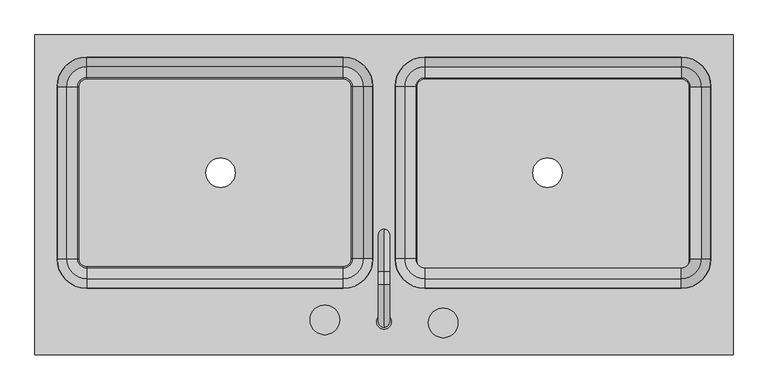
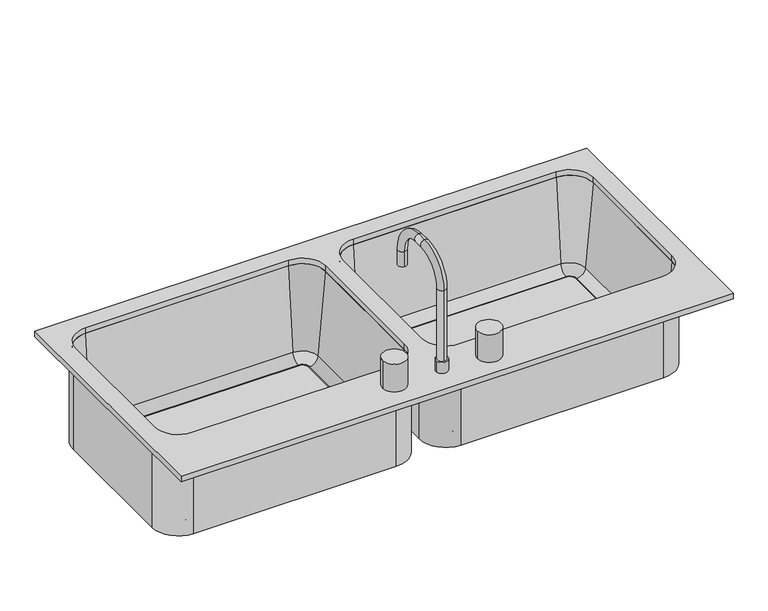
"""IFC4 building model written with IfcOpenShell, lengths in millimetres: flow terminal geometry, Evier double - Encastrable : 1000 mm x 535 mm."""

from ifc_helpers import new_model, si_unit, point, frame, frame_2d, origin, place, context, project, spatial, polyline, circle_curve, ellipse_curve, trimmed, segment, composite_curve, outline, extrude, source, transform, mapped, element, save
from ifc_brep_helpers import plane_surface, cylinder_surface, revolved_surface, advanced_brep


def flow_terminal_1db47c05(model_context):
    return source(origin(), model_context, "Body", "SolidModel", [
        extrude(outline(composite_curve([segment(polyline([(526.7892406, -127.5338193), (85.5392406, -127.5338193)]), True, "CONTINUOUS"), segment(trimmed(circle_curve(frame_2d((85.5392406, -114.8338193)), 12.7), [point((85.5392406, -127.5338193))], [point((72.8392406, -114.8338193))], False, "CARTESIAN"), True, "CONTINUOUS"), segment(polyline([(72.8392406, -114.8338193), (72.8392406, 183.7545989)]), True, "CONTINUOUS"), segment(trimmed(circle_curve(frame_2d((85.5392406, 183.7545989)), 12.7), [point((72.8392406, 183.7545989))], [point((85.5392406, 196.4545989))], False, "CARTESIAN"), True, "CONTINUOUS"), segment(polyline([(85.5392406, 196.4545989), (526.7892406, 196.4545989)]), True, "CONTINUOUS"), segment(trimmed(circle_curve(frame_2d((526.7892406, 183.7545989)), 12.7), [point((526.7892406, 196.4545989))], [point((539.4892406, 183.7545989))], False, "CARTESIAN"), True, "CONTINUOUS"), segment(polyline([(539.4892406, 183.7545989), (539.4892406, -114.8338193)]), True, "CONTINUOUS"), segment(trimmed(circle_curve(frame_2d((526.7892406, -114.8338193)), 12.7), [point((539.4892406, -114.8338193))], [point((526.7892406, -127.5338193))], False, "CARTESIAN"), True, "CONTINUOUS")], self_intersect=False), holes=[composite_curve([segment(trimmed(circle_curve(frame_2d((296.6392406, 35.7545989)), 25.4), [point((271.2392406, 35.7545989))], [point((322.0392406, 35.7545989))], True, "CARTESIAN"), True, "CONTINUOUS"), segment(trimmed(circle_curve(frame_2d((296.6392406, 35.7545989)), 25.4), [point((322.0392406, 35.7545989))], [point((271.2392406, 35.7545989))], True, "CARTESIAN"), True, "CONTINUOUS")], self_intersect=False)]), frame((0.0, 0.0, 634.1), z_axis=(0.0, 0.0, 1.0), x_axis=(1.0, 0.0, 0.0)), (0.0, 0.0, 1.0), 9.525),
        advanced_brep(
        [(34.7392406, -112.2454011, 850.0), (28.3892406, -112.2454011, 850.0), (85.5392406, -169.3954011, 850.0), (85.5392406, -163.0454011, 850.0), (51.2733134, -112.2454011, 661.0146831), (85.5392406, -146.5113283, 661.0146831), (70.2508224, -112.2454011, 643.625), (85.5392406, -127.5338193, 643.625), (72.8392406, -112.2454011, 643.625), (85.5392406, -124.9454011, 643.625), (72.8392406, -112.2454011, 634.1), (85.5392406, -124.9454011, 634.1), (28.3892406, -112.2454011, 634.1), (85.5392406, -169.3954011, 634.1), (34.7392406, 183.7545989, 850.0), (28.3892406, 183.7545989, 850.0), (51.2733134, 183.7545989, 661.0146831), (70.2508224, 183.7545989, 643.625), (72.8392406, 183.7545989, 643.625), (72.8392406, 183.7545989, 634.1), (28.3892406, 183.7545989, 634.1), (85.5392406, 234.5545989, 850.0), (85.5392406, 240.9045989, 850.0), (85.5392406, 218.0205261, 661.0146831), (85.5392406, 199.0430171, 643.625), (85.5392406, 196.4545989, 643.625), (85.5392406, 196.4545989, 634.1), (85.5392406, 240.9045989, 634.1), (526.7892406, 234.5545989, 850.0), (526.7892406, 240.9045989, 850.0), (526.7892406, 218.0205261, 661.0146831), (526.7892406, 199.0430171, 643.625), (526.7892406, 196.4545989, 643.625), (526.7892406, 196.4545989, 634.1), (526.7892406, 240.9045989, 634.1), (577.5892406, 183.7545989, 850.0), (583.9392406, 183.7545989, 850.0), (561.0551678, 183.7545989, 661.0146831), (542.0776588, 183.7545989, 643.625), (539.4892406, 183.7545989, 643.625), (539.4892406, 183.7545989, 634.1), (583.9392406, 183.7545989, 634.1), (577.5892406, -112.2454011, 850.0), (583.9392406, -112.2454011, 850.0), (561.0551678, -112.2454011, 661.0146831), (542.0776588, -112.2454011, 643.625), (539.4892406, -112.2454011, 643.625), (539.4892406, -112.2454011, 634.1), (583.9392406, -112.2454011, 634.1), (526.7892406, -163.0454011, 850.0), (526.7892406, -169.3954011, 850.0), (526.7892406, -146.5113283, 661.0146831), (526.7892406, -127.5338193, 643.625), (526.7892406, -124.9454011, 643.625), (526.7892406, -124.9454011, 634.1), (526.7892406, -169.3954011, 634.1)],
        [
            (0, 1),
            (1, 2, circle_curve(frame((85.5392406, -112.2454011, 850.0), z_axis=(0.0, 0.0, 1.0), x_axis=(0.0, -1.0, 0.0)), 57.15)),
            (2, 3),
            (3, 0, circle_curve(frame((85.5392406, -112.2454011, 850.0), z_axis=(0.0, 0.0, -1.0), x_axis=(0.0, -1.0, 0.0)), 50.8)),
            (4, 0),
            (3, 5),
            (5, 4, circle_curve(frame((85.5392406, -112.2454011, 661.0146831), z_axis=(0.0, 0.0, -1.0), x_axis=(0.0, -1.0, 0.0)), 34.2659272)),
            (6, 4, circle_curve(frame((70.2508224, -112.2454011, 662.675), z_axis=(0.0, 1.0, 0.0), x_axis=(1.0, 0.0, 0.0)), 19.05)),
            (5, 7, circle_curve(frame((85.5392406, -127.5338193, 662.675), z_axis=(1.0, 0.0, 0.0), x_axis=(0.0, 1.0, 0.0)), 19.05)),
            (7, 6, circle_curve(frame((85.5392406, -112.2454011, 643.625), z_axis=(0.0, 0.0, -1.0), x_axis=(0.0, -1.0, 0.0)), 15.2884182)),
            (8, 6),
            (7, 9),
            (9, 8, circle_curve(frame((85.5392406, -112.2454011, 643.625), z_axis=(0.0, 0.0, -1.0), x_axis=(0.0, -1.0, 0.0)), 12.7)),
            (10, 8),
            (9, 11),
            (11, 10, circle_curve(frame((85.5392406, -112.2454011, 634.1), z_axis=(0.0, 0.0, -1.0), x_axis=(0.0, -1.0, 0.0)), 12.7)),
            (12, 10),
            (11, 13),
            (13, 12, circle_curve(frame((85.5392406, -112.2454011, 634.1), z_axis=(0.0, 0.0, -1.0), x_axis=(0.0, -1.0, 0.0)), 57.15)),
            (1, 12),
            (13, 2),
            (0, 14),
            (14, 15),
            (15, 1),
            (4, 16),
            (16, 14),
            (6, 17),
            (17, 16, circle_curve(frame((70.2508224, 183.7545989, 662.675), z_axis=(0.0, 1.0, 0.0), x_axis=(1.0, 0.0, 0.0)), 19.05)),
            (8, 18),
            (18, 17),
            (10, 19),
            (19, 18),
            (12, 20),
            (20, 19),
            (15, 20),
            (21, 22),
            (22, 15, circle_curve(frame((85.5392406, 183.7545989, 850.0), z_axis=(0.0, 0.0, 1.0), x_axis=(-1.0, 0.0, 0.0)), 57.15)),
            (14, 21, circle_curve(frame((85.5392406, 183.7545989, 850.0), z_axis=(0.0, 0.0, -1.0), x_axis=(-1.0, 0.0, 0.0)), 50.8)),
            (23, 21),
            (16, 23, circle_curve(frame((85.5392406, 183.7545989, 661.0146831), z_axis=(0.0, 0.0, -1.0), x_axis=(-1.0, 0.0, 0.0)), 34.2659272)),
            (24, 23, circle_curve(frame((85.5392406, 199.0430171, 662.675), z_axis=(1.0, 0.0, 0.0), x_axis=(0.0, -1.0, 0.0)), 19.05)),
            (17, 24, circle_curve(frame((85.5392406, 183.7545989, 643.625), z_axis=(0.0, 0.0, -1.0), x_axis=(-1.0, 0.0, 0.0)), 15.2884182)),
            (25, 24),
            (18, 25, circle_curve(frame((85.5392406, 183.7545989, 643.625), z_axis=(0.0, 0.0, -1.0), x_axis=(-1.0, 0.0, 0.0)), 12.7)),
            (26, 25),
            (19, 26, circle_curve(frame((85.5392406, 183.7545989, 634.1), z_axis=(0.0, 0.0, -1.0), x_axis=(-1.0, 0.0, 0.0)), 12.7)),
            (27, 26),
            (20, 27, circle_curve(frame((85.5392406, 183.7545989, 634.1), z_axis=(0.0, 0.0, -1.0), x_axis=(-1.0, 0.0, 0.0)), 57.15)),
            (22, 27),
            (21, 28),
            (28, 29),
            (29, 22),
            (23, 30),
            (30, 28),
            (24, 31),
            (31, 30, circle_curve(frame((526.7892406, 199.0430171, 662.675), z_axis=(1.0, 0.0, 0.0), x_axis=(0.0, -1.0, 0.0)), 19.05)),
            (25, 32),
            (32, 31),
            (26, 33),
            (33, 32),
            (27, 34),
            (34, 33),
            (29, 34),
            (35, 36),
            (36, 29, circle_curve(frame((526.7892406, 183.7545989, 850.0), z_axis=(0.0, 0.0, 1.0), x_axis=(0.0, 1.0, 0.0)), 57.15)),
            (28, 35, circle_curve(frame((526.7892406, 183.7545989, 850.0), z_axis=(0.0, 0.0, -1.0), x_axis=(0.0, 1.0, 0.0)), 50.8)),
            (37, 35),
            (30, 37, circle_curve(frame((526.7892406, 183.7545989, 661.0146831), z_axis=(0.0, 0.0, -1.0), x_axis=(0.0, 1.0, 0.0)), 34.2659272)),
            (38, 37, circle_curve(frame((542.0776588, 183.7545989, 662.675), z_axis=(0.0, -1.0, 0.0), x_axis=(-1.0, 0.0, 0.0)), 19.05)),
            (31, 38, circle_curve(frame((526.7892406, 183.7545989, 643.625), z_axis=(0.0, 0.0, -1.0), x_axis=(0.0, 1.0, 0.0)), 15.2884182)),
            (39, 38),
            (32, 39, circle_curve(frame((526.7892406, 183.7545989, 643.625), z_axis=(0.0, 0.0, -1.0), x_axis=(0.0, 1.0, 0.0)), 12.7)),
            (40, 39),
            (33, 40, circle_curve(frame((526.7892406, 183.7545989, 634.1), z_axis=(0.0, 0.0, -1.0), x_axis=(0.0, 1.0, 0.0)), 12.7)),
            (41, 40),
            (34, 41, circle_curve(frame((526.7892406, 183.7545989, 634.1), z_axis=(0.0, 0.0, -1.0), x_axis=(0.0, 1.0, 0.0)), 57.15)),
            (36, 41),
            (35, 42),
            (42, 43),
            (43, 36),
            (37, 44),
            (44, 42),
            (38, 45),
            (45, 44, circle_curve(frame((542.0776588, -112.2454011, 662.675), z_axis=(0.0, -1.0, 0.0), x_axis=(-1.0, 0.0, 0.0)), 19.05)),
            (39, 46),
            (46, 45),
            (40, 47),
            (47, 46),
            (41, 48),
            (48, 47),
            (43, 48),
            (49, 50),
            (50, 43, circle_curve(frame((526.7892406, -112.2454011, 850.0), z_axis=(0.0, 0.0, 1.0), x_axis=(1.0, 0.0, 0.0)), 57.15)),
            (42, 49, circle_curve(frame((526.7892406, -112.2454011, 850.0), z_axis=(0.0, 0.0, -1.0), x_axis=(1.0, 0.0, 0.0)), 50.8)),
            (51, 49),
            (44, 51, circle_curve(frame((526.7892406, -112.2454011, 661.0146831), z_axis=(0.0, 0.0, -1.0), x_axis=(1.0, 0.0, 0.0)), 34.2659272)),
            (52, 51, circle_curve(frame((526.7892406, -127.5338193, 662.675), z_axis=(-1.0, 0.0, 0.0), x_axis=(0.0, 1.0, 0.0)), 19.05)),
            (45, 52, circle_curve(frame((526.7892406, -112.2454011, 643.625), z_axis=(0.0, 0.0, -1.0), x_axis=(1.0, 0.0, 0.0)), 15.2884182)),
            (53, 52),
            (46, 53, circle_curve(frame((526.7892406, -112.2454011, 643.625), z_axis=(0.0, 0.0, -1.0), x_axis=(1.0, 0.0, 0.0)), 12.7)),
            (54, 53),
            (47, 54, circle_curve(frame((526.7892406, -112.2454011, 634.1), z_axis=(0.0, 0.0, -1.0), x_axis=(1.0, 0.0, 0.0)), 12.7)),
            (55, 54),
            (48, 55, circle_curve(frame((526.7892406, -112.2454011, 634.1), z_axis=(0.0, 0.0, -1.0), x_axis=(1.0, 0.0, 0.0)), 57.15)),
            (50, 55),
            (49, 3),
            (2, 50),
            (51, 5),
            (52, 7),
            (53, 9),
            (54, 11),
            (55, 13),
        ],
        [
            plane_surface(frame((85.5392406, -112.2454011, 850.0), z_axis=(0.0, 0.0, 1.0), x_axis=(0.0, -1.0, 0.0))),
            revolved_surface(polyline([(85.5392406, -163.0454011, 850.0), (85.5392406, -146.5113283, 661.0146831)]), (85.5392406, -112.2454011, 0.0), (0.0, 0.0, 1.0)),
            revolved_surface(trimmed(ellipse_curve(frame((85.5392406, -127.5338193, 662.675), z_axis=(1.0, 0.0, 0.0), x_axis=(0.0, 1.0, 0.0)), 19.05, 19.05), [point((85.5392406, -146.5113283, 661.0146831))], [point((85.5392406, -127.5338193, 643.625))], True, "CARTESIAN"), (85.5392406, -112.2454011, 0.0), (0.0, 0.0, 1.0)),
            plane_surface(frame((85.5392406, -112.2454011, 643.625), z_axis=(0.0, 0.0, 1.0), x_axis=(0.0, -1.0, 0.0))),
            revolved_surface(polyline([(85.5392406, -124.9454011, 643.625), (85.5392406, -124.9454011, 634.1)]), (85.5392406, -112.2454011, 0.0), (0.0, 0.0, 1.0)),
            plane_surface(frame((85.5392406, -112.2454011, 634.1), z_axis=(0.0, 0.0, -1.0), x_axis=(0.0, -1.0, 0.0))),
            cylinder_surface(frame((85.5392406, -112.2454011, 0.0), z_axis=(0.0, 0.0, 1.0), x_axis=(0.0, -1.0, 0.0)), 57.15),
            plane_surface(frame((28.3892406, -112.2454011, 850.0), z_axis=(0.0, 0.0, 1.0), x_axis=(0.0, 1.0, 0.0))),
            plane_surface(frame((34.7392406, -112.2454011, 850.0), z_axis=(0.996194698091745, 0.0, 0.08715574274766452), x_axis=(0.0, 1.0, 0.0))),
            revolved_surface(polyline([(89.3008224, 183.75459890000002, 662.675), (89.3008224, -112.2454011, 662.675)]), (70.2508224, -112.2454011, 662.675), (0.0, 1.0, 0.0)),
            plane_surface(frame((70.2508224, -112.2454011, 643.625), z_axis=(0.0, 0.0, 1.0), x_axis=(0.0, 1.0, 0.0))),
            plane_surface(frame((72.8392406, -112.2454011, 643.625), z_axis=(1.0, 0.0, 0.0), x_axis=(0.0, 1.0, 0.0))),
            plane_surface(frame((72.8392406, -112.2454011, 634.1), z_axis=(0.0, 0.0, -1.0), x_axis=(0.0, 1.0, 0.0))),
            plane_surface(frame((28.3892406, -112.2454011, 634.1), z_axis=(-1.0, 0.0, 0.0), x_axis=(0.0, 1.0, 0.0))),
            plane_surface(frame((85.5392406, 183.7545989, 850.0), z_axis=(0.0, 0.0, 1.0), x_axis=(-1.0, 0.0, 0.0))),
            revolved_surface(polyline([(34.7392406, 183.7545989, 850.0), (51.2733134, 183.7545989, 661.0146831)]), (85.5392406, 183.7545989, 0.0), (0.0, 0.0, 1.0)),
            revolved_surface(trimmed(ellipse_curve(frame((70.2508224, 183.7545989, 662.675), z_axis=(0.0, -1.0, 0.0), x_axis=(1.0, 0.0, 0.0)), 19.05, 19.05), [point((51.2733134, 183.7545989, 661.0146831))], [point((70.2508224, 183.7545989, 643.625))], True, "CARTESIAN"), (85.5392406, 183.7545989, 0.0), (0.0, 0.0, 1.0)),
            plane_surface(frame((85.5392406, 183.7545989, 643.625), z_axis=(0.0, 0.0, 1.0), x_axis=(-1.0, 0.0, 0.0))),
            revolved_surface(polyline([(72.8392406, 183.7545989, 643.625), (72.8392406, 183.7545989, 634.1)]), (85.5392406, 183.7545989, 0.0), (0.0, 0.0, 1.0)),
            plane_surface(frame((85.5392406, 183.7545989, 634.1), z_axis=(0.0, 0.0, -1.0), x_axis=(-1.0, 0.0, 0.0))),
            cylinder_surface(frame((85.5392406, 183.7545989, 0.0), z_axis=(0.0, 0.0, 1.0), x_axis=(-1.0, 0.0, 0.0)), 57.15),
            plane_surface(frame((85.5392406, 240.9045989, 850.0), z_axis=(0.0, 0.0, 1.0), x_axis=(1.0, 0.0, 0.0))),
            plane_surface(frame((85.5392406, 234.5545989, 850.0), z_axis=(0.0, -0.996194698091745, 0.08715574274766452), x_axis=(1.0, 0.0, 0.0))),
            revolved_surface(polyline([(526.7892406, 179.99301709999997, 662.675), (85.5392406, 179.99301709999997, 662.675)]), (85.5392406, 199.0430171, 662.675), (1.0, 0.0, 0.0)),
            plane_surface(frame((85.5392406, 199.0430171, 643.625), z_axis=(0.0, 0.0, 1.0), x_axis=(1.0, 0.0, 0.0))),
            plane_surface(frame((85.5392406, 196.4545989, 643.625), z_axis=(0.0, -1.0, 0.0), x_axis=(1.0, 0.0, 0.0))),
            plane_surface(frame((85.5392406, 196.4545989, 634.1), z_axis=(0.0, 0.0, -1.0), x_axis=(1.0, 0.0, 0.0))),
            plane_surface(frame((85.5392406, 240.9045989, 634.1), z_axis=(0.0, 1.0, 0.0), x_axis=(1.0, 0.0, 0.0))),
            plane_surface(frame((526.7892406, 183.7545989, 850.0), z_axis=(0.0, 0.0, 1.0), x_axis=(0.0, 1.0, 0.0))),
            revolved_surface(polyline([(526.7892406, 234.5545989, 850.0), (526.7892406, 218.0205261, 661.0146831)]), (526.7892406, 183.7545989, 0.0), (0.0, 0.0, 1.0)),
            revolved_surface(trimmed(ellipse_curve(frame((526.7892406, 199.0430171, 662.675), z_axis=(-1.0, 0.0, 0.0), x_axis=(0.0, -1.0, 0.0)), 19.05, 19.05), [point((526.7892406, 218.0205261, 661.0146831))], [point((526.7892406, 199.0430171, 643.625))], True, "CARTESIAN"), (526.7892406, 183.7545989, 0.0), (0.0, 0.0, 1.0)),
            plane_surface(frame((526.7892406, 183.7545989, 643.625), z_axis=(0.0, 0.0, 1.0), x_axis=(0.0, 1.0, 0.0))),
            revolved_surface(polyline([(526.7892406, 196.45459889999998, 643.625), (526.7892406, 196.45459889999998, 634.1)]), (526.7892406, 183.7545989, 0.0), (0.0, 0.0, 1.0)),
            plane_surface(frame((526.7892406, 183.7545989, 634.1), z_axis=(0.0, 0.0, -1.0), x_axis=(0.0, 1.0, 0.0))),
            cylinder_surface(frame((526.7892406, 183.7545989, 0.0), z_axis=(0.0, 0.0, 1.0), x_axis=(0.0, 1.0, 0.0)), 57.15),
            plane_surface(frame((583.9392406, 183.7545989, 850.0), z_axis=(0.0, 0.0, 1.0), x_axis=(0.0, -1.0, 0.0))),
            plane_surface(frame((577.5892406, 183.7545989, 850.0), z_axis=(-0.996194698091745, 0.0, 0.08715574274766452), x_axis=(0.0, -1.0, 0.0))),
            revolved_surface(polyline([(523.0276588, -112.24540110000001, 662.675), (523.0276588, 183.7545989, 662.675)]), (542.0776588, 183.7545989, 662.675), (0.0, -1.0, 0.0)),
            plane_surface(frame((542.0776588, 183.7545989, 643.625), z_axis=(0.0, 0.0, 1.0), x_axis=(0.0, -1.0, 0.0))),
            plane_surface(frame((539.4892406, 183.7545989, 643.625), z_axis=(-1.0, 0.0, 0.0), x_axis=(0.0, -1.0, 0.0))),
            plane_surface(frame((539.4892406, 183.7545989, 634.1), z_axis=(0.0, 0.0, -1.0), x_axis=(0.0, -1.0, 0.0))),
            plane_surface(frame((583.9392406, 183.7545989, 634.1), z_axis=(1.0, 0.0, 0.0), x_axis=(0.0, -1.0, 0.0))),
            plane_surface(frame((526.7892406, -112.2454011, 850.0), z_axis=(0.0, 0.0, 1.0), x_axis=(1.0, 0.0, 0.0))),
            revolved_surface(polyline([(577.5892406, -112.2454011, 850.0), (561.0551678, -112.2454011, 661.0146831)]), (526.7892406, -112.2454011, 0.0), (0.0, 0.0, 1.0)),
            revolved_surface(trimmed(ellipse_curve(frame((542.0776588, -112.2454011, 662.675), z_axis=(0.0, 1.0, 0.0), x_axis=(-1.0, 0.0, 0.0)), 19.05, 19.05), [point((561.0551678, -112.2454011, 661.0146831))], [point((542.0776588, -112.2454011, 643.625))], True, "CARTESIAN"), (526.7892406, -112.2454011, 0.0), (0.0, 0.0, 1.0)),
            plane_surface(frame((526.7892406, -112.2454011, 643.625), z_axis=(0.0, 0.0, 1.0), x_axis=(1.0, 0.0, 0.0))),
            revolved_surface(polyline([(539.4892406, -112.2454011, 643.625), (539.4892406, -112.2454011, 634.1)]), (526.7892406, -112.2454011, 0.0), (0.0, 0.0, 1.0)),
            plane_surface(frame((526.7892406, -112.2454011, 634.1), z_axis=(0.0, 0.0, -1.0), x_axis=(1.0, 0.0, 0.0))),
            cylinder_surface(frame((526.7892406, -112.2454011, 0.0), z_axis=(0.0, 0.0, 1.0), x_axis=(1.0, 0.0, 0.0)), 57.15),
            plane_surface(frame((526.7892406, -169.3954011, 850.0), z_axis=(0.0, 0.0, 1.0), x_axis=(-1.0, 0.0, 0.0))),
            plane_surface(frame((526.7892406, -163.0454011, 850.0), z_axis=(0.0, 0.996194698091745, 0.08715574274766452), x_axis=(-1.0, 0.0, 0.0))),
            revolved_surface(polyline([(85.53924059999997, -108.48381930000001, 662.675), (526.7892406, -108.48381930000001, 662.675)]), (526.7892406, -127.5338193, 662.675), (-1.0, 0.0, 0.0)),
            plane_surface(frame((526.7892406, -127.5338193, 643.625), z_axis=(0.0, 0.0, 1.0), x_axis=(-1.0, 0.0, 0.0))),
            plane_surface(frame((526.7892406, -124.9454011, 643.625), z_axis=(0.0, 1.0, 0.0), x_axis=(-1.0, 0.0, 0.0))),
            plane_surface(frame((526.7892406, -124.9454011, 634.1), z_axis=(0.0, 0.0, -1.0), x_axis=(-1.0, 0.0, 0.0))),
            plane_surface(frame((526.7892406, -169.3954011, 634.1), z_axis=(0.0, -1.0, 0.0), x_axis=(-1.0, 0.0, 0.0))),
        ],
        [
            (0, [[1, 2, 3, 4]]),
            (1, [[5, -4, 6, 7]]),
            (2, [[8, -7, 9, 10]]),
            (3, [[11, -10, 12, 13]]),
            (4, [[14, -13, 15, 16]]),
            (5, [[17, -16, 18, 19]]),
            (6, [[20, -19, 21, -2]]),
            (7, [[22, 23, 24, -1]]),
            (8, [[25, 26, -22, -5]]),
            (9, [[27, 28, -25, -8]]),
            (10, [[29, 30, -27, -11]]),
            (11, [[31, 32, -29, -14]]),
            (12, [[33, 34, -31, -17]]),
            (13, [[-24, 35, -33, -20]]),
            (14, [[36, 37, -23, 38]]),
            (15, [[39, -38, -26, 40]]),
            (16, [[41, -40, -28, 42]]),
            (17, [[43, -42, -30, 44]]),
            (18, [[45, -44, -32, 46]]),
            (19, [[47, -46, -34, 48]]),
            (20, [[49, -48, -35, -37]]),
            (21, [[50, 51, 52, -36]]),
            (22, [[53, 54, -50, -39]]),
            (23, [[55, 56, -53, -41]]),
            (24, [[57, 58, -55, -43]]),
            (25, [[59, 60, -57, -45]]),
            (26, [[61, 62, -59, -47]]),
            (27, [[-52, 63, -61, -49]]),
            (28, [[64, 65, -51, 66]]),
            (29, [[67, -66, -54, 68]]),
            (30, [[69, -68, -56, 70]]),
            (31, [[71, -70, -58, 72]]),
            (32, [[73, -72, -60, 74]]),
            (33, [[75, -74, -62, 76]]),
            (34, [[77, -76, -63, -65]]),
            (35, [[78, 79, 80, -64]]),
            (36, [[81, 82, -78, -67]]),
            (37, [[83, 84, -81, -69]]),
            (38, [[85, 86, -83, -71]]),
            (39, [[87, 88, -85, -73]]),
            (40, [[89, 90, -87, -75]]),
            (41, [[-80, 91, -89, -77]]),
            (42, [[92, 93, -79, 94]]),
            (43, [[95, -94, -82, 96]]),
            (44, [[97, -96, -84, 98]]),
            (45, [[99, -98, -86, 100]]),
            (46, [[101, -100, -88, 102]]),
            (47, [[103, -102, -90, 104]]),
            (48, [[105, -104, -91, -93]]),
            (49, [[106, -3, 107, -92]]),
            (50, [[108, -6, -106, -95]]),
            (51, [[109, -9, -108, -97]]),
            (52, [[110, -12, -109, -99]]),
            (53, [[111, -15, -110, -101]]),
            (54, [[112, -18, -111, -103]]),
            (55, [[-107, -21, -112, -105]]),
        ],
    ),
        extrude(outline(composite_curve([segment(trimmed(circle_curve(frame_2d((15.6892406, -220.1954011)), 12.7), [point((2.9892406, -220.1954011))], [point((28.3892406, -220.1954011))], False, "CARTESIAN"), True, "CONTINUOUS"), segment(trimmed(circle_curve(frame_2d((15.6892406, -220.1954011)), 12.7), [point((28.3892406, -220.1954011))], [point((2.9892406, -220.1954011))], False, "CARTESIAN"), True, "CONTINUOUS")], self_intersect=False)), frame((0.0, 0.0, 862.7), z_axis=(0.0, 0.0, 1.0), x_axis=(1.0, 0.0, 0.0)), (0.0, 0.0, 1.0), 25.4),
        advanced_brep(
        [(15.6892406, -229.7204011, 862.7), (15.6892406, -210.6704011, 862.7), (15.6892406, -210.6704011, 1050.025), (15.6892406, -229.7204011, 1050.025), (15.6892406, -156.6954011, 1104.0), (15.6892406, -156.6954011, 1123.05), (15.6892406, -134.4704011, 1104.0), (15.6892406, -134.4704011, 1123.05), (15.6892406, -80.4954011, 1050.025), (15.6892406, -61.4454011, 1050.025), (15.6892406, -61.4454011, 1015.1), (15.6892406, -80.4954011, 1015.1)],
        [
            (0, 1, circle_curve(frame((15.6892406, -220.1954011, 862.7), z_axis=(0.0, 0.0, -1.0), x_axis=(0.0, 1.0, 0.0)), 9.525)),
            (1, 0, circle_curve(frame((15.6892406, -220.1954011, 862.7), z_axis=(0.0, 0.0, -1.0), x_axis=(0.0, 1.0, 0.0)), 9.525)),
            (1, 2),
            (2, 3, circle_curve(frame((15.6892406, -220.1954011, 1050.025), z_axis=(0.0, 0.0, -1.0), x_axis=(0.0, 1.0, 0.0)), 9.525)),
            (3, 0),
            (3, 2, circle_curve(frame((15.6892406, -220.1954011, 1050.025), z_axis=(0.0, 0.0, -1.0), x_axis=(0.0, 1.0, 0.0)), 9.525)),
            (4, 5, circle_curve(frame((15.6892406, -156.6954011, 1113.525), z_axis=(0.0, -1.0, 0.0), x_axis=(0.0, 0.0, -1.0)), 9.525)),
            (5, 3, circle_curve(frame((15.6892406, -156.6954011, 1050.025), z_axis=(1.0, 0.0, 0.0), x_axis=(0.0, -1.0, 0.0)), 73.025)),
            (2, 4, circle_curve(frame((15.6892406, -156.6954011, 1050.025), z_axis=(-1.0, 0.0, 0.0), x_axis=(0.0, -1.0, 0.0)), 53.975)),
            (5, 4, circle_curve(frame((15.6892406, -156.6954011, 1113.525), z_axis=(0.0, -1.0, 0.0), x_axis=(0.0, 0.0, -1.0)), 9.525)),
            (4, 6),
            (6, 7, circle_curve(frame((15.6892406, -134.4704011, 1113.525), z_axis=(0.0, -1.0, 0.0), x_axis=(0.0, 0.0, -1.0)), 9.525)),
            (7, 5),
            (7, 6, circle_curve(frame((15.6892406, -134.4704011, 1113.525), z_axis=(0.0, -1.0, 0.0), x_axis=(0.0, 0.0, -1.0)), 9.525)),
            (8, 9, circle_curve(frame((15.6892406, -70.9704011, 1050.025), z_axis=(0.0, 0.0, 1.0), x_axis=(0.0, -1.0, 0.0)), 9.525)),
            (9, 7, circle_curve(frame((15.6892406, -134.4704011, 1050.025), z_axis=(1.0, 0.0, 0.0), x_axis=(0.0, 0.0, 1.0)), 73.025)),
            (6, 8, circle_curve(frame((15.6892406, -134.4704011, 1050.025), z_axis=(-1.0, 0.0, 0.0), x_axis=(0.0, 0.0, 1.0)), 53.975)),
            (9, 8, circle_curve(frame((15.6892406, -70.9704011, 1050.025), z_axis=(0.0, 0.0, 1.0), x_axis=(0.0, -1.0, 0.0)), 9.525)),
            (10, 11, circle_curve(frame((15.6892406, -70.9704011, 1015.1), z_axis=(0.0, 0.0, -1.0), x_axis=(0.0, -1.0, 0.0)), 9.525)),
            (11, 10, circle_curve(frame((15.6892406, -70.9704011, 1015.1), z_axis=(0.0, 0.0, -1.0), x_axis=(0.0, -1.0, 0.0)), 9.525)),
            (8, 11),
            (10, 9),
        ],
        [
            plane_surface(frame((15.6892406, -210.6704011, 862.7), z_axis=(0.0, 0.0, -1.0), x_axis=(1.0, 0.0, 0.0))),
            cylinder_surface(frame((15.6892406, -220.1954011, 862.7), z_axis=(0.0, 0.0, -1.0), x_axis=(0.0, 1.0, 0.0)), 9.525),
            revolved_surface(trimmed(ellipse_curve(frame((15.6892406, -220.1954011, 1050.025), z_axis=(0.0, 0.0, 1.0), x_axis=(0.0, 1.0, 0.0)), 9.525, 9.525), [point((15.6892406, -229.7204011, 1050.025))], [point((15.6892406, -210.6704011, 1050.025))], True, "CARTESIAN"), (15.6892406, -156.6954011, 1050.025), (1.0, 0.0, 0.0)),
            revolved_surface(trimmed(ellipse_curve(frame((15.6892406, -220.1954011, 1050.025), z_axis=(0.0, 0.0, 1.0), x_axis=(0.0, 1.0, 0.0)), 9.525, 9.525), [point((15.6892406, -210.6704011, 1050.025))], [point((15.6892406, -229.7204011, 1050.025))], True, "CARTESIAN"), (15.6892406, -156.6954011, 1050.025), (1.0, 0.0, 0.0)),
            cylinder_surface(frame((15.6892406, -156.6954011, 1113.525), z_axis=(0.0, -1.0, 0.0), x_axis=(0.0, 0.0, -1.0)), 9.525),
            revolved_surface(trimmed(ellipse_curve(frame((15.6892406, -134.4704011, 1113.525), z_axis=(0.0, 1.0, 0.0), x_axis=(0.0, 0.0, -1.0)), 9.525, 9.525), [point((15.6892406, -134.4704011, 1123.05))], [point((15.6892406, -134.4704011, 1104.0))], True, "CARTESIAN"), (15.6892406, -134.4704011, 1050.025), (1.0, 0.0, 0.0)),
            revolved_surface(trimmed(ellipse_curve(frame((15.6892406, -134.4704011, 1113.525), z_axis=(0.0, 1.0, 0.0), x_axis=(0.0, 0.0, -1.0)), 9.525, 9.525), [point((15.6892406, -134.4704011, 1104.0))], [point((15.6892406, -134.4704011, 1123.05))], True, "CARTESIAN"), (15.6892406, -134.4704011, 1050.025), (1.0, 0.0, 0.0)),
            plane_surface(frame((15.6892406, -61.4454011, 1015.1), z_axis=(0.0, 0.0, -1.0), x_axis=(-1.0, 0.0, 0.0))),
            cylinder_surface(frame((15.6892406, -70.9704011, 1050.025), z_axis=(0.0, 0.0, 1.0), x_axis=(0.0, -1.0, 0.0)), 9.525),
        ],
        [
            (0, [[1, 2]]),
            (1, [[3, 4, 5, -2]]),
            (1, [[-5, 6, -3, -1]]),
            (2, [[7, 8, -4, 9]]),
            (3, [[10, -9, -6, -8]]),
            (4, [[11, 12, 13, -7]]),
            (4, [[-13, 14, -11, -10]]),
            (5, [[15, 16, -12, 17]]),
            (6, [[18, -17, -14, -16]]),
            (7, [[19, 20]]),
            (8, [[21, -19, 22, -15]]),
            (8, [[-22, -20, -21, -18]]),
        ],
    ),
        extrude(outline(composite_curve([segment(trimmed(circle_curve(frame_2d((-85.9107594, -217.1166076)), 25.4), [point((-111.3107594, -217.1166076))], [point((-60.5107594, -217.1166076))], False, "CARTESIAN"), True, "CONTINUOUS"), segment(trimmed(circle_curve(frame_2d((-85.9107594, -217.1166076)), 25.4), [point((-60.5107594, -217.1166076))], [point((-111.3107594, -217.1166076))], False, "CARTESIAN"), True, "CONTINUOUS")], self_intersect=False)), frame((0.0, 0.0, 862.7), z_axis=(0.0, 0.0, 1.0), x_axis=(1.0, 0.0, 0.0)), (0.0, 0.0, 1.0), 63.5),
        extrude(outline(composite_curve([segment(trimmed(circle_curve(frame_2d((117.2892406, -222.3133323)), 25.4), [point((91.8892406, -222.3133323))], [point((142.6892406, -222.3133323))], False, "CARTESIAN"), True, "CONTINUOUS"), segment(trimmed(circle_curve(frame_2d((117.2892406, -222.3133323)), 25.4), [point((142.6892406, -222.3133323))], [point((91.8892406, -222.3133323))], False, "CARTESIAN"), True, "CONTINUOUS")], self_intersect=False)), frame((0.0, 0.0, 862.7), z_axis=(0.0, 0.0, 1.0), x_axis=(1.0, 0.0, 0.0)), (0.0, 0.0, 1.0), 63.5),
        extrude(outline(composite_curve([segment(polyline([(-54.1607594, -124.9454011), (-495.4107594, -124.9454011)]), True, "CONTINUOUS"), segment(trimmed(circle_curve(frame_2d((-495.4107594, -112.2454011)), 12.7), [point((-495.4107594, -124.9454011))], [point((-508.1107594, -112.2454011))], False, "CARTESIAN"), True, "CONTINUOUS"), segment(polyline([(-508.1107594, -112.2454011), (-508.1107594, 183.7545989)]), True, "CONTINUOUS"), segment(trimmed(circle_curve(frame_2d((-495.4107594, 183.7545989)), 12.7), [point((-508.1107594, 183.7545989))], [point((-495.4107594, 196.4545989))], False, "CARTESIAN"), True, "CONTINUOUS"), segment(polyline([(-495.4107594, 196.4545989), (-54.1607594, 196.4545989)]), True, "CONTINUOUS"), segment(trimmed(circle_curve(frame_2d((-54.1607594, 183.7545989)), 12.7), [point((-54.1607594, 196.4545989))], [point((-41.4607594, 183.7545989))], False, "CARTESIAN"), True, "CONTINUOUS"), segment(polyline([(-41.4607594, 183.7545989), (-41.4607594, -112.2454011)]), True, "CONTINUOUS"), segment(trimmed(circle_curve(frame_2d((-54.1607594, -112.2454011)), 12.7), [point((-41.4607594, -112.2454011))], [point((-54.1607594, -124.9454011))], False, "CARTESIAN"), True, "CONTINUOUS")], self_intersect=False), holes=[composite_curve([segment(trimmed(circle_curve(frame_2d((-265.2607594, 35.7545989)), 25.4), [point((-290.6607594, 35.7545989))], [point((-239.8607594, 35.7545989))], True, "CARTESIAN"), True, "CONTINUOUS"), segment(trimmed(circle_curve(frame_2d((-265.2607594, 35.7545989)), 25.4), [point((-239.8607594, 35.7545989))], [point((-290.6607594, 35.7545989))], True, "CARTESIAN"), True, "CONTINUOUS")], self_intersect=False)]), frame((0.0, 0.0, 634.1), z_axis=(0.0, 0.0, 1.0), x_axis=(1.0, 0.0, 0.0)), (0.0, 0.0, 1.0), 9.525),
        advanced_brep(
        [(2.9892406, -112.2454011, 634.1), (2.9892406, -112.2454011, 850.0), (-54.1607594, -169.3954011, 850.0), (-54.1607594, -169.3954011, 634.1), (-41.4607594, -112.2454011, 634.1), (-54.1607594, -124.9454011, 634.1), (-41.4607594, -112.2454011, 643.625), (-54.1607594, -124.9454011, 643.625), (-38.8723412, -112.2454011, 643.625), (-54.1607594, -127.5338193, 643.625), (-19.8948322, -112.2454011, 661.0146831), (-54.1607594, -146.5113283, 661.0146831), (-3.3607594, -112.2454011, 850.0), (-54.1607594, -163.0454011, 850.0), (2.9892406, 183.7545989, 634.1), (2.9892406, 183.7545989, 850.0), (-41.4607594, 183.7545989, 634.1), (-41.4607594, 183.7545989, 643.625), (-38.8723412, 183.7545989, 643.625), (-19.8948322, 183.7545989, 661.0146831), (-3.3607594, 183.7545989, 850.0), (-54.1607594, 240.9045989, 634.1), (-54.1607594, 240.9045989, 850.0), (-54.1607594, 196.4545989, 634.1), (-54.1607594, 196.4545989, 643.625), (-54.1607594, 199.0430171, 643.625), (-54.1607594, 218.0205261, 661.0146831), (-54.1607594, 234.5545989, 850.0), (-495.4107594, 240.9045989, 634.1), (-495.4107594, 240.9045989, 850.0), (-495.4107594, 196.4545989, 634.1), (-495.4107594, 196.4545989, 643.625), (-495.4107594, 199.0430171, 643.625), (-495.4107594, 218.0205261, 661.0146831), (-495.4107594, 234.5545989, 850.0), (-552.5607594, 183.7545989, 634.1), (-552.5607594, 183.7545989, 850.0), (-508.1107594, 183.7545989, 634.1), (-508.1107594, 183.7545989, 643.625), (-510.6991776, 183.7545989, 643.625), (-529.6766866, 183.7545989, 661.0146831), (-546.2107594, 183.7545989, 850.0), (-552.5607594, -112.2454011, 634.1), (-552.5607594, -112.2454011, 850.0), (-508.1107594, -112.2454011, 634.1), (-508.1107594, -112.2454011, 643.625), (-510.6991776, -112.2454011, 643.625), (-529.6766866, -112.2454011, 661.0146831), (-546.2107594, -112.2454011, 850.0), (-495.4107594, -169.3954011, 634.1), (-495.4107594, -169.3954011, 850.0), (-495.4107594, -124.9454011, 634.1), (-495.4107594, -124.9454011, 643.625), (-495.4107594, -127.5338193, 643.625), (-495.4107594, -146.5113283, 661.0146831), (-495.4107594, -163.0454011, 850.0)],
        [
            (0, 1),
            (1, 2, circle_curve(frame((-54.1607594, -112.2454011, 850.0), z_axis=(0.0, 0.0, -1.0), x_axis=(0.0, -1.0, 0.0)), 57.15)),
            (2, 3),
            (3, 0, circle_curve(frame((-54.1607594, -112.2454011, 634.1), z_axis=(0.0, 0.0, 1.0), x_axis=(0.0, -1.0, 0.0)), 57.15)),
            (4, 0),
            (3, 5),
            (5, 4, circle_curve(frame((-54.1607594, -112.2454011, 634.1), z_axis=(0.0, 0.0, 1.0), x_axis=(0.0, -1.0, 0.0)), 12.7)),
            (6, 4),
            (5, 7),
            (7, 6, circle_curve(frame((-54.1607594, -112.2454011, 643.625), z_axis=(0.0, 0.0, 1.0), x_axis=(0.0, -1.0, 0.0)), 12.7)),
            (8, 6),
            (7, 9),
            (9, 8, circle_curve(frame((-54.1607594, -112.2454011, 643.625), z_axis=(0.0, 0.0, 1.0), x_axis=(0.0, -1.0, 0.0)), 15.2884182)),
            (10, 8, circle_curve(frame((-38.8723412, -112.2454011, 662.675), z_axis=(0.0, 1.0, 0.0), x_axis=(1.0, 0.0, 0.0)), 19.05)),
            (9, 11, circle_curve(frame((-54.1607594, -127.5338193, 662.675), z_axis=(-1.0, 0.0, 0.0), x_axis=(0.0, -1.0, 0.0)), 19.05)),
            (11, 10, circle_curve(frame((-54.1607594, -112.2454011, 661.0146831), z_axis=(0.0, 0.0, 1.0), x_axis=(0.0, -1.0, 0.0)), 34.2659272)),
            (12, 10),
            (11, 13),
            (13, 12, circle_curve(frame((-54.1607594, -112.2454011, 850.0), z_axis=(0.0, 0.0, 1.0), x_axis=(0.0, -1.0, 0.0)), 50.8)),
            (1, 12),
            (13, 2),
            (0, 14),
            (14, 15),
            (15, 1),
            (4, 16),
            (16, 14),
            (6, 17),
            (17, 16),
            (8, 18),
            (18, 17),
            (10, 19),
            (19, 18, circle_curve(frame((-38.8723412, 183.7545989, 662.675), z_axis=(0.0, 1.0, 0.0), x_axis=(1.0, 0.0, 0.0)), 19.05)),
            (12, 20),
            (20, 19),
            (15, 20),
            (21, 22),
            (22, 15, circle_curve(frame((-54.1607594, 183.7545989, 850.0), z_axis=(0.0, 0.0, -1.0), x_axis=(1.0, 0.0, 0.0)), 57.15)),
            (14, 21, circle_curve(frame((-54.1607594, 183.7545989, 634.1), z_axis=(0.0, 0.0, 1.0), x_axis=(1.0, 0.0, 0.0)), 57.15)),
            (23, 21),
            (16, 23, circle_curve(frame((-54.1607594, 183.7545989, 634.1), z_axis=(0.0, 0.0, 1.0), x_axis=(1.0, 0.0, 0.0)), 12.7)),
            (24, 23),
            (17, 24, circle_curve(frame((-54.1607594, 183.7545989, 643.625), z_axis=(0.0, 0.0, 1.0), x_axis=(1.0, 0.0, 0.0)), 12.7)),
            (25, 24),
            (18, 25, circle_curve(frame((-54.1607594, 183.7545989, 643.625), z_axis=(0.0, 0.0, 1.0), x_axis=(1.0, 0.0, 0.0)), 15.2884182)),
            (26, 25, circle_curve(frame((-54.1607594, 199.0430171, 662.675), z_axis=(-1.0, 0.0, 0.0), x_axis=(0.0, 1.0, 0.0)), 19.05)),
            (19, 26, circle_curve(frame((-54.1607594, 183.7545989, 661.0146831), z_axis=(0.0, 0.0, 1.0), x_axis=(1.0, 0.0, 0.0)), 34.2659272)),
            (27, 26),
            (20, 27, circle_curve(frame((-54.1607594, 183.7545989, 850.0), z_axis=(0.0, 0.0, 1.0), x_axis=(1.0, 0.0, 0.0)), 50.8)),
            (22, 27),
            (21, 28),
            (28, 29),
            (29, 22),
            (23, 30),
            (30, 28),
            (24, 31),
            (31, 30),
            (25, 32),
            (32, 31),
            (26, 33),
            (33, 32, circle_curve(frame((-495.4107594, 199.0430171, 662.675), z_axis=(-1.0, 0.0, 0.0), x_axis=(0.0, 1.0, 0.0)), 19.05)),
            (27, 34),
            (34, 33),
            (29, 34),
            (35, 36),
            (36, 29, circle_curve(frame((-495.4107594, 183.7545989, 850.0), z_axis=(0.0, 0.0, -1.0), x_axis=(0.0, 1.0, 0.0)), 57.15)),
            (28, 35, circle_curve(frame((-495.4107594, 183.7545989, 634.1), z_axis=(0.0, 0.0, 1.0), x_axis=(0.0, 1.0, 0.0)), 57.15)),
            (37, 35),
            (30, 37, circle_curve(frame((-495.4107594, 183.7545989, 634.1), z_axis=(0.0, 0.0, 1.0), x_axis=(0.0, 1.0, 0.0)), 12.7)),
            (38, 37),
            (31, 38, circle_curve(frame((-495.4107594, 183.7545989, 643.625), z_axis=(0.0, 0.0, 1.0), x_axis=(0.0, 1.0, 0.0)), 12.7)),
            (39, 38),
            (32, 39, circle_curve(frame((-495.4107594, 183.7545989, 643.625), z_axis=(0.0, 0.0, 1.0), x_axis=(0.0, 1.0, 0.0)), 15.2884182)),
            (40, 39, circle_curve(frame((-510.6991776, 183.7545989, 662.675), z_axis=(0.0, -1.0, 0.0), x_axis=(-1.0, 0.0, 0.0)), 19.05)),
            (33, 40, circle_curve(frame((-495.4107594, 183.7545989, 661.0146831), z_axis=(0.0, 0.0, 1.0), x_axis=(0.0, 1.0, 0.0)), 34.2659272)),
            (41, 40),
            (34, 41, circle_curve(frame((-495.4107594, 183.7545989, 850.0), z_axis=(0.0, 0.0, 1.0), x_axis=(0.0, 1.0, 0.0)), 50.8)),
            (36, 41),
            (35, 42),
            (42, 43),
            (43, 36),
            (37, 44),
            (44, 42),
            (38, 45),
            (45, 44),
            (39, 46),
            (46, 45),
            (40, 47),
            (47, 46, circle_curve(frame((-510.6991776, -112.2454011, 662.675), z_axis=(0.0, -1.0, 0.0), x_axis=(-1.0, 0.0, 0.0)), 19.05)),
            (41, 48),
            (48, 47),
            (43, 48),
            (49, 50),
            (50, 43, circle_curve(frame((-495.4107594, -112.2454011, 850.0), z_axis=(0.0, 0.0, -1.0), x_axis=(-1.0, 0.0, 0.0)), 57.15)),
            (42, 49, circle_curve(frame((-495.4107594, -112.2454011, 634.1), z_axis=(0.0, 0.0, 1.0), x_axis=(-1.0, 0.0, 0.0)), 57.15)),
            (51, 49),
            (44, 51, circle_curve(frame((-495.4107594, -112.2454011, 634.1), z_axis=(0.0, 0.0, 1.0), x_axis=(-1.0, 0.0, 0.0)), 12.7)),
            (52, 51),
            (45, 52, circle_curve(frame((-495.4107594, -112.2454011, 643.625), z_axis=(0.0, 0.0, 1.0), x_axis=(-1.0, 0.0, 0.0)), 12.7)),
            (53, 52),
            (46, 53, circle_curve(frame((-495.4107594, -112.2454011, 643.625), z_axis=(0.0, 0.0, 1.0), x_axis=(-1.0, 0.0, 0.0)), 15.2884182)),
            (54, 53, circle_curve(frame((-495.4107594, -127.5338193, 662.675), z_axis=(1.0, 0.0, 0.0), x_axis=(0.0, -1.0, 0.0)), 19.05)),
            (47, 54, circle_curve(frame((-495.4107594, -112.2454011, 661.0146831), z_axis=(0.0, 0.0, 1.0), x_axis=(-1.0, 0.0, 0.0)), 34.2659272)),
            (55, 54),
            (48, 55, circle_curve(frame((-495.4107594, -112.2454011, 850.0), z_axis=(0.0, 0.0, 1.0), x_axis=(-1.0, 0.0, 0.0)), 50.8)),
            (50, 55),
            (49, 3),
            (2, 50),
            (51, 5),
            (52, 7),
            (53, 9),
            (54, 11),
            (55, 13),
        ],
        [
            cylinder_surface(frame((-54.1607594, -112.2454011, 0.0), z_axis=(0.0, 0.0, -1.0), x_axis=(0.0, -1.0, 0.0)), 57.15),
            plane_surface(frame((-54.1607594, -112.2454011, 634.1), z_axis=(0.0, 0.0, -1.0), x_axis=(0.0, -1.0, 0.0))),
            revolved_surface(polyline([(-54.1607594, -124.9454011, 634.1), (-54.1607594, -124.9454011, 643.625)]), (-54.1607594, -112.2454011, 0.0), (0.0, 0.0, -1.0)),
            plane_surface(frame((-54.1607594, -112.2454011, 643.625), z_axis=(0.0, 0.0, 1.0), x_axis=(0.0, -1.0, 0.0))),
            revolved_surface(trimmed(ellipse_curve(frame((-54.1607594, -127.5338193, 662.675), z_axis=(-1.0, 0.0, 0.0), x_axis=(0.0, -1.0, 0.0)), 19.05, 19.05), [point((-54.1607594, -127.5338193, 643.625))], [point((-54.1607594, -146.5113283, 661.0146831))], True, "CARTESIAN"), (-54.1607594, -112.2454011, 0.0), (0.0, 0.0, -1.0)),
            revolved_surface(polyline([(-54.1607594, -146.5113283, 661.0146831), (-54.1607594, -163.0454011, 850.0)]), (-54.1607594, -112.2454011, 0.0), (0.0, 0.0, -1.0)),
            plane_surface(frame((-54.1607594, -112.2454011, 850.0), z_axis=(0.0, 0.0, 1.0), x_axis=(0.0, -1.0, 0.0))),
            plane_surface(frame((2.9892406, -112.2454011, 850.0), z_axis=(1.0, 0.0, 0.0), x_axis=(0.0, 1.0, 0.0))),
            plane_surface(frame((2.9892406, -112.2454011, 634.1), z_axis=(0.0, 0.0, -1.0), x_axis=(0.0, 1.0, 0.0))),
            plane_surface(frame((-41.4607594, -112.2454011, 634.1), z_axis=(-1.0, 0.0, 0.0), x_axis=(0.0, 1.0, 0.0))),
            plane_surface(frame((-41.4607594, -112.2454011, 643.625), z_axis=(0.0, 0.0, 1.0), x_axis=(0.0, 1.0, 0.0))),
            revolved_surface(polyline([(-19.8223412, 183.75459890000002, 662.675), (-19.8223412, -112.2454011, 662.675)]), (-38.8723412, -112.2454011, 662.675), (0.0, 1.0, 0.0)),
            plane_surface(frame((-19.8948322, -112.2454011, 661.0146831), z_axis=(-0.996194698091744, 0.0, 0.08715574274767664), x_axis=(0.0, 1.0, 0.0))),
            plane_surface(frame((-3.3607594, -112.2454011, 850.0), z_axis=(0.0, 0.0, 1.0), x_axis=(0.0, 1.0, 0.0))),
            cylinder_surface(frame((-54.1607594, 183.7545989, 0.0), z_axis=(0.0, 0.0, -1.0), x_axis=(1.0, 0.0, 0.0)), 57.15),
            plane_surface(frame((-54.1607594, 183.7545989, 634.1), z_axis=(0.0, 0.0, -1.0), x_axis=(1.0, 0.0, 0.0))),
            revolved_surface(polyline([(-41.4607594, 183.7545989, 634.1), (-41.4607594, 183.7545989, 643.625)]), (-54.1607594, 183.7545989, 0.0), (0.0, 0.0, -1.0)),
            plane_surface(frame((-54.1607594, 183.7545989, 643.625), z_axis=(0.0, 0.0, 1.0), x_axis=(1.0, 0.0, 0.0))),
            revolved_surface(trimmed(ellipse_curve(frame((-38.8723412, 183.7545989, 662.675), z_axis=(0.0, -1.0, 0.0), x_axis=(1.0, 0.0, 0.0)), 19.05, 19.05), [point((-38.8723412, 183.7545989, 643.625))], [point((-19.8948322, 183.7545989, 661.0146831))], True, "CARTESIAN"), (-54.1607594, 183.7545989, 0.0), (0.0, 0.0, -1.0)),
            revolved_surface(polyline([(-19.8948322, 183.7545989, 661.0146831), (-3.3607594, 183.7545989, 850.0)]), (-54.1607594, 183.7545989, 0.0), (0.0, 0.0, -1.0)),
            plane_surface(frame((-54.1607594, 183.7545989, 850.0), z_axis=(0.0, 0.0, 1.0), x_axis=(1.0, 0.0, 0.0))),
            plane_surface(frame((-54.1607594, 240.9045989, 850.0), z_axis=(0.0, 1.0, 0.0), x_axis=(-1.0, 0.0, 0.0))),
            plane_surface(frame((-54.1607594, 240.9045989, 634.1), z_axis=(0.0, 0.0, -1.0), x_axis=(-1.0, 0.0, 0.0))),
            plane_surface(frame((-54.1607594, 196.4545989, 634.1), z_axis=(0.0, -1.0, 0.0), x_axis=(-1.0, 0.0, 0.0))),
            plane_surface(frame((-54.1607594, 196.4545989, 643.625), z_axis=(0.0, 0.0, 1.0), x_axis=(-1.0, 0.0, 0.0))),
            revolved_surface(polyline([(-495.4107594, 218.0930171, 662.675), (-54.1607594, 218.0930171, 662.675)]), (-54.1607594, 199.0430171, 662.675), (-1.0, 0.0, 0.0)),
            plane_surface(frame((-54.1607594, 218.0205261, 661.0146831), z_axis=(0.0, -0.996194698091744, 0.08715574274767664), x_axis=(-1.0, 0.0, 0.0))),
            plane_surface(frame((-54.1607594, 234.5545989, 850.0), z_axis=(0.0, 0.0, 1.0), x_axis=(-1.0, 0.0, 0.0))),
            cylinder_surface(frame((-495.4107594, 183.7545989, 0.0), z_axis=(0.0, 0.0, -1.0), x_axis=(0.0, 1.0, 0.0)), 57.15),
            plane_surface(frame((-495.4107594, 183.7545989, 634.1), z_axis=(0.0, 0.0, -1.0), x_axis=(0.0, 1.0, 0.0))),
            revolved_surface(polyline([(-495.4107594, 196.45459889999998, 634.1), (-495.4107594, 196.45459889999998, 643.625)]), (-495.4107594, 183.7545989, 0.0), (0.0, 0.0, -1.0)),
            plane_surface(frame((-495.4107594, 183.7545989, 643.625), z_axis=(0.0, 0.0, 1.0), x_axis=(0.0, 1.0, 0.0))),
            revolved_surface(trimmed(ellipse_curve(frame((-495.4107594, 199.0430171, 662.675), z_axis=(1.0, 0.0, 0.0), x_axis=(0.0, 1.0, 0.0)), 19.05, 19.05), [point((-495.4107594, 199.0430171, 643.625))], [point((-495.4107594, 218.0205261, 661.0146831))], True, "CARTESIAN"), (-495.4107594, 183.7545989, 0.0), (0.0, 0.0, -1.0)),
            revolved_surface(polyline([(-495.4107594, 218.0205261, 661.0146831), (-495.4107594, 234.5545989, 850.0)]), (-495.4107594, 183.7545989, 0.0), (0.0, 0.0, -1.0)),
            plane_surface(frame((-495.4107594, 183.7545989, 850.0), z_axis=(0.0, 0.0, 1.0), x_axis=(0.0, 1.0, 0.0))),
            plane_surface(frame((-552.5607594, 183.7545989, 850.0), z_axis=(-1.0, 0.0, 0.0), x_axis=(0.0, -1.0, 0.0))),
            plane_surface(frame((-552.5607594, 183.7545989, 634.1), z_axis=(0.0, 0.0, -1.0), x_axis=(0.0, -1.0, 0.0))),
            plane_surface(frame((-508.1107594, 183.7545989, 634.1), z_axis=(1.0, 0.0, 0.0), x_axis=(0.0, -1.0, 0.0))),
            plane_surface(frame((-508.1107594, 183.7545989, 643.625), z_axis=(0.0, 0.0, 1.0), x_axis=(0.0, -1.0, 0.0))),
            revolved_surface(polyline([(-529.7491775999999, -112.24540110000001, 662.675), (-529.7491775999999, 183.7545989, 662.675)]), (-510.6991776, 183.7545989, 662.675), (0.0, -1.0, 0.0)),
            plane_surface(frame((-529.6766866, 183.7545989, 661.0146831), z_axis=(0.996194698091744, 0.0, 0.08715574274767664), x_axis=(0.0, -1.0, 0.0))),
            plane_surface(frame((-546.2107594, 183.7545989, 850.0), z_axis=(0.0, 0.0, 1.0), x_axis=(0.0, -1.0, 0.0))),
            cylinder_surface(frame((-495.4107594, -112.2454011, 0.0), z_axis=(0.0, 0.0, -1.0), x_axis=(-1.0, 0.0, 0.0)), 57.15),
            plane_surface(frame((-495.4107594, -112.2454011, 634.1), z_axis=(0.0, 0.0, -1.0), x_axis=(-1.0, 0.0, 0.0))),
            revolved_surface(polyline([(-508.1107594, -112.2454011, 634.1), (-508.1107594, -112.2454011, 643.625)]), (-495.4107594, -112.2454011, 0.0), (0.0, 0.0, -1.0)),
            plane_surface(frame((-495.4107594, -112.2454011, 643.625), z_axis=(0.0, 0.0, 1.0), x_axis=(-1.0, 0.0, 0.0))),
            revolved_surface(trimmed(ellipse_curve(frame((-510.6991776, -112.2454011, 662.675), z_axis=(0.0, 1.0, 0.0), x_axis=(-1.0, 0.0, 0.0)), 19.05, 19.05), [point((-510.6991776, -112.2454011, 643.625))], [point((-529.6766866, -112.2454011, 661.0146831))], True, "CARTESIAN"), (-495.4107594, -112.2454011, 0.0), (0.0, 0.0, -1.0)),
            revolved_surface(polyline([(-529.6766866, -112.2454011, 661.0146831), (-546.2107594, -112.2454011, 850.0)]), (-495.4107594, -112.2454011, 0.0), (0.0, 0.0, -1.0)),
            plane_surface(frame((-495.4107594, -112.2454011, 850.0), z_axis=(0.0, 0.0, 1.0), x_axis=(-1.0, 0.0, 0.0))),
            plane_surface(frame((-495.4107594, -169.3954011, 850.0), z_axis=(0.0, -1.0, 0.0), x_axis=(1.0, 0.0, 0.0))),
            plane_surface(frame((-495.4107594, -169.3954011, 634.1), z_axis=(0.0, 0.0, -1.0), x_axis=(1.0, 0.0, 0.0))),
            plane_surface(frame((-495.4107594, -124.9454011, 634.1), z_axis=(0.0, 1.0, 0.0), x_axis=(1.0, 0.0, 0.0))),
            plane_surface(frame((-495.4107594, -124.9454011, 643.625), z_axis=(0.0, 0.0, 1.0), x_axis=(1.0, 0.0, 0.0))),
            revolved_surface(polyline([(-54.16075940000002, -146.58381930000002, 662.675), (-495.4107594, -146.58381930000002, 662.675)]), (-495.4107594, -127.5338193, 662.675), (1.0, 0.0, 0.0)),
            plane_surface(frame((-495.4107594, -146.5113283, 661.0146831), z_axis=(0.0, 0.996194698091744, 0.08715574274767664), x_axis=(1.0, 0.0, 0.0))),
            plane_surface(frame((-495.4107594, -163.0454011, 850.0), z_axis=(0.0, 0.0, 1.0), x_axis=(1.0, 0.0, 0.0))),
        ],
        [
            (0, [[1, 2, 3, 4]]),
            (1, [[5, -4, 6, 7]]),
            (2, [[8, -7, 9, 10]]),
            (3, [[11, -10, 12, 13]]),
            (4, [[14, -13, 15, 16]]),
            (5, [[17, -16, 18, 19]]),
            (6, [[20, -19, 21, -2]]),
            (7, [[22, 23, 24, -1]]),
            (8, [[25, 26, -22, -5]]),
            (9, [[27, 28, -25, -8]]),
            (10, [[29, 30, -27, -11]]),
            (11, [[31, 32, -29, -14]]),
            (12, [[33, 34, -31, -17]]),
            (13, [[-24, 35, -33, -20]]),
            (14, [[36, 37, -23, 38]]),
            (15, [[39, -38, -26, 40]]),
            (16, [[41, -40, -28, 42]]),
            (17, [[43, -42, -30, 44]]),
            (18, [[45, -44, -32, 46]]),
            (19, [[47, -46, -34, 48]]),
            (20, [[49, -48, -35, -37]]),
            (21, [[50, 51, 52, -36]]),
            (22, [[53, 54, -50, -39]]),
            (23, [[55, 56, -53, -41]]),
            (24, [[57, 58, -55, -43]]),
            (25, [[59, 60, -57, -45]]),
            (26, [[61, 62, -59, -47]]),
            (27, [[-52, 63, -61, -49]]),
            (28, [[64, 65, -51, 66]]),
            (29, [[67, -66, -54, 68]]),
            (30, [[69, -68, -56, 70]]),
            (31, [[71, -70, -58, 72]]),
            (32, [[73, -72, -60, 74]]),
            (33, [[75, -74, -62, 76]]),
            (34, [[77, -76, -63, -65]]),
            (35, [[78, 79, 80, -64]]),
            (36, [[81, 82, -78, -67]]),
            (37, [[83, 84, -81, -69]]),
            (38, [[85, 86, -83, -71]]),
            (39, [[87, 88, -85, -73]]),
            (40, [[89, 90, -87, -75]]),
            (41, [[-80, 91, -89, -77]]),
            (42, [[92, 93, -79, 94]]),
            (43, [[95, -94, -82, 96]]),
            (44, [[97, -96, -84, 98]]),
            (45, [[99, -98, -86, 100]]),
            (46, [[101, -100, -88, 102]]),
            (47, [[103, -102, -90, 104]]),
            (48, [[105, -104, -91, -93]]),
            (49, [[106, -3, 107, -92]]),
            (50, [[108, -6, -106, -95]]),
            (51, [[109, -9, -108, -97]]),
            (52, [[110, -12, -109, -99]]),
            (53, [[111, -15, -110, -101]]),
            (54, [[112, -18, -111, -103]]),
            (55, [[-107, -21, -112, -105]]),
        ],
    ),
        extrude(outline(polyline([(615.6892406, -277.3454011), (-584.3107594, -277.3454011), (-584.3107594, 272.6545989), (615.6892406, 272.6545989), (615.6892406, -277.3454011)]), holes=[composite_curve([segment(trimmed(circle_curve(frame_2d((-54.1607594, -112.2454011)), 50.8), [point((-54.1607594, -163.0454011))], [point((-3.3607594, -112.2454011))], True, "CARTESIAN"), True, "CONTINUOUS"), segment(polyline([(-3.3607594, -112.2454011), (-3.3607594, 183.7545989)]), True, "CONTINUOUS"), segment(trimmed(circle_curve(frame_2d((-54.1607594, 183.7545989)), 50.8), [point((-3.3607594, 183.7545989))], [point((-54.1607594, 234.5545989))], True, "CARTESIAN"), True, "CONTINUOUS"), segment(polyline([(-54.1607594, 234.5545989), (-495.4107594, 234.5545989)]), True, "CONTINUOUS"), segment(trimmed(circle_curve(frame_2d((-495.4107594, 183.7545989)), 50.8), [point((-495.4107594, 234.5545989))], [point((-546.2107594, 183.7545989))], True, "CARTESIAN"), True, "CONTINUOUS"), segment(polyline([(-546.2107594, 183.7545989), (-546.2107594, -112.2454011)]), True, "CONTINUOUS"), segment(trimmed(circle_curve(frame_2d((-495.4107594, -112.2454011)), 50.8), [point((-546.2107594, -112.2454011))], [point((-495.4107594, -163.0454011))], True, "CARTESIAN"), True, "CONTINUOUS"), segment(polyline([(-495.4107594, -163.0454011), (-54.1607594, -163.0454011)]), True, "CONTINUOUS")], self_intersect=False), composite_curve([segment(trimmed(circle_curve(frame_2d((85.5392406, 183.7545989)), 50.8), [point((85.5392406, 234.5545989))], [point((34.7392406, 183.7545989))], True, "CARTESIAN"), True, "CONTINUOUS"), segment(polyline([(34.7392406, 183.7545989), (34.7392406, -112.2454011)]), True, "CONTINUOUS"), segment(trimmed(circle_curve(frame_2d((85.5392406, -112.2454011)), 50.8), [point((34.7392406, -112.2454011))], [point((85.5392406, -163.0454011))], True, "CARTESIAN"), True, "CONTINUOUS"), segment(polyline([(85.5392406, -163.0454011), (526.7892406, -163.0454011)]), True, "CONTINUOUS"), segment(trimmed(circle_curve(frame_2d((526.7892406, -112.2454011)), 50.8), [point((526.7892406, -163.0454011))], [point((577.5892406, -112.2454011))], True, "CARTESIAN"), True, "CONTINUOUS"), segment(polyline([(577.5892406, -112.2454011), (577.5892406, 183.7545989)]), True, "CONTINUOUS"), segment(trimmed(circle_curve(frame_2d((526.7892406, 183.7545989)), 50.8), [point((577.5892406, 183.7545989))], [point((526.7892406, 234.5545989))], True, "CARTESIAN"), True, "CONTINUOUS"), segment(polyline([(526.7892406, 234.5545989), (85.5392406, 234.5545989)]), True, "CONTINUOUS")], self_intersect=False)]), frame((0.0, 0.0, 850.0), z_axis=(0.0, 0.0, 1.0), x_axis=(1.0, 0.0, 0.0)), (0.0, 0.0, 1.0), 12.7),
    ])


if __name__ == "__main__":
    model = new_model("IFC4")
    model_context = context("Model", 3, world=origin())
    ifc_project = project(units=[si_unit("LENGTHUNIT", "METRE", prefix="MILLI")], contexts=[model_context])
    site = spatial("IfcSite", under=ifc_project)
    building = spatial("IfcBuilding", under=site)
    placement = place(None, origin())
    flow_terminal_shape = flow_terminal_1db47c05(model_context)
    element("IfcFlowTerminal", 1, ObjectType="Evier double - Encastrable : 1000 mm x 535 mm", at=placement, inside=building, context=model_context, shape_type="MappedRepresentation", body=[
        mapped(flow_terminal_shape, transform((0.0, 0.0, 0.0), x_axis=(1.0, 0.0, 0.0), y_axis=(0.0, 1.0, 0.0), z_axis=(0.0, 0.0, 1.0))),
    ])
    save(model, "model.ifc")
